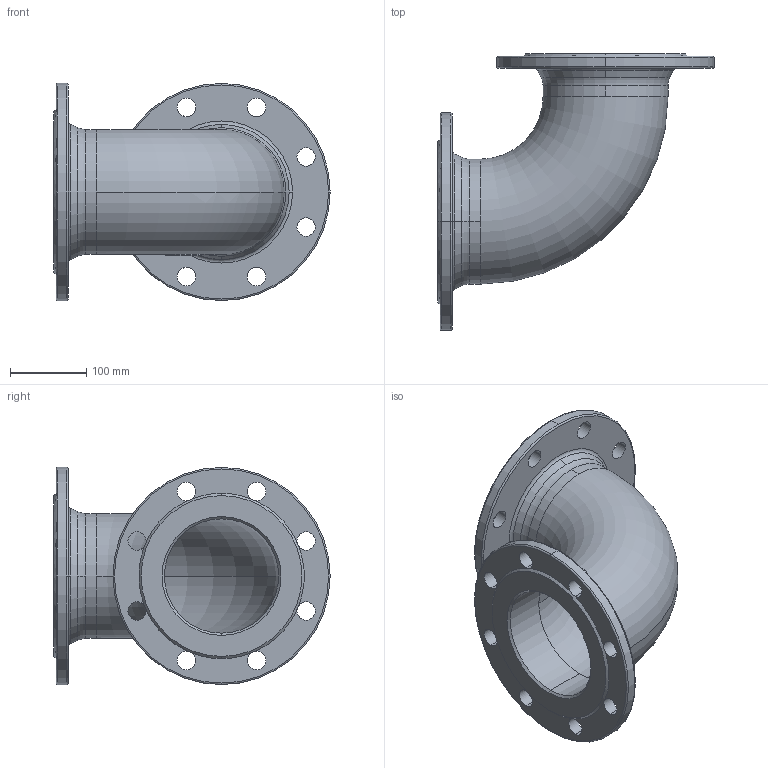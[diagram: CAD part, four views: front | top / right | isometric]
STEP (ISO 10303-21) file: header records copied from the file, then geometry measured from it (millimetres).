
FILE_DESCRIPTION (( 'STEP AP203' ), '1' );
FILE_NAME ('O_712_0610_DN150_1X_REV01.step', '2021-11-19T09:55:57', ( '' ), ( '' ), 'SwSTEP 2.0', 'SolidWorks 2019', '' );
FILE_SCHEMA (( 'CONFIG_CONTROL_DESIGN' ));
Length unit declared in the file: millimetre
Products named in the file (1): O_712_0610_DN150_1X_REV01
Bounding box: 362.5 x 362.5 x 285 mm (x, y, z)
Volume: 2685836.6 mm3; surface area: 546767.2 mm2
Topology: 1 solids, 1 shells, 123 faces, 373 edges, 244 vertices
Faces by surface type: cylinder 46, plane 41, torus 24, cone 12
Entity records: 4692 total; most frequent: CARTESIAN_POINT 1203, ORIENTED_EDGE 746, DIRECTION 721, EDGE_CURVE 373, AXIS2_PLACEMENT_3D 314, VERTEX_POINT 244, CIRCLE 190, EDGE_LOOP 149
